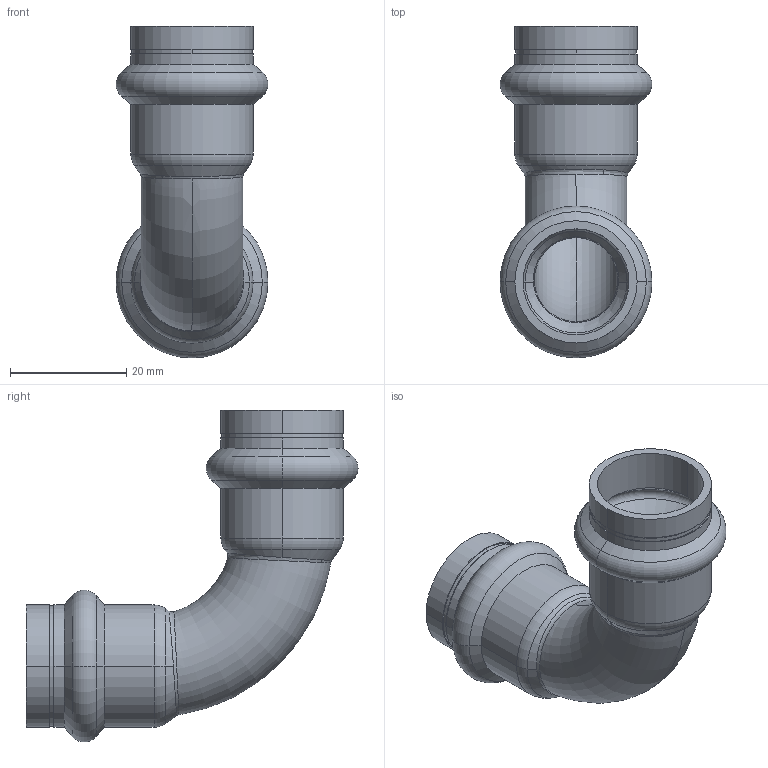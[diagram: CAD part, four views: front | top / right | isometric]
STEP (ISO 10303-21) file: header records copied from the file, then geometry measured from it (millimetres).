
FILE_DESCRIPTION (( 'STEP AP203' ), '1' );
FILE_NAME ('SP5002 Ø18.STEP', '2017-04-24T08:02:36', ( '' ), ( '' ), 'SwSTEP 2.0', 'SolidWorks 2016', '' );
FILE_SCHEMA (( 'CONFIG_CONTROL_DESIGN' ));
Length unit declared in the file: millimetre
Products named in the file (1): SP5002 ﾘ18
Bounding box: 26.1 x 57.05 x 57.05 mm (x, y, z)
Volume: 7188.2 mm3; surface area: 10103.1 mm2
Topology: 1 solids, 1 shells, 82 faces, 180 edges, 104 vertices
Faces by surface type: cone 24, cylinder 24, torus 20, bspline 8, plane 6
Entity records: 4019 total; most frequent: CARTESIAN_POINT 2161, DIRECTION 398, ORIENTED_EDGE 360, EDGE_CURVE 180, AXIS2_PLACEMENT_3D 175, VERTEX_POINT 104, CIRCLE 100, EDGE_LOOP 88
